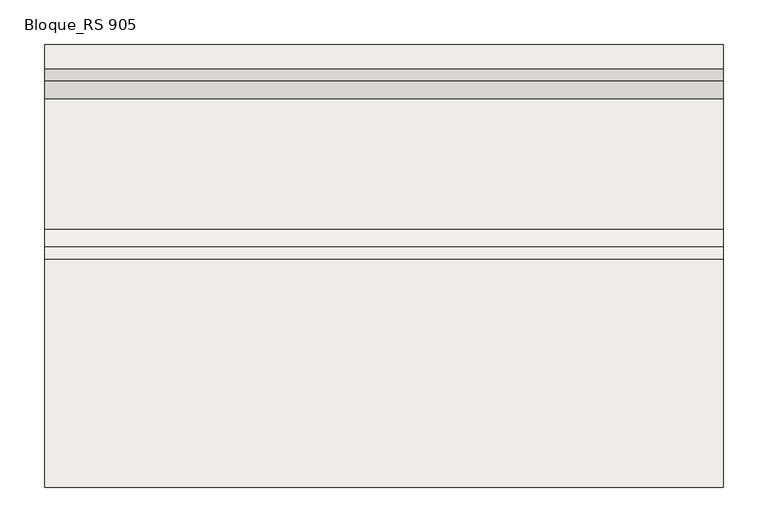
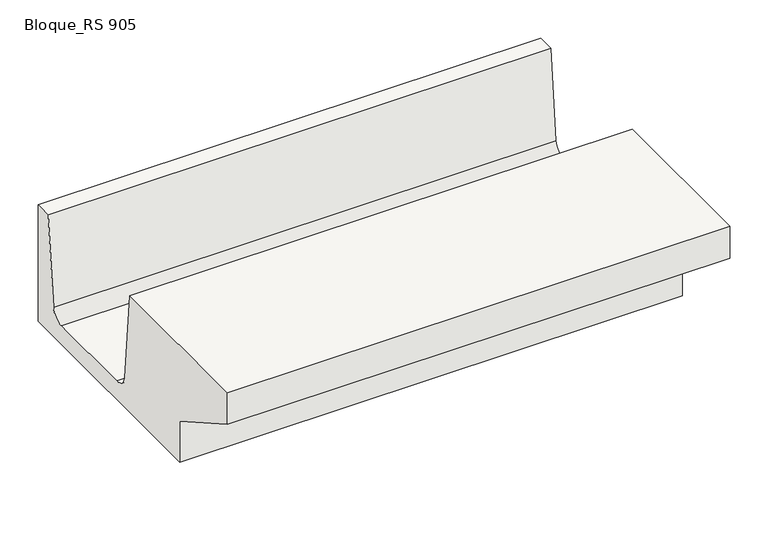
"""IFC4 building model written with IfcOpenShell, lengths in millimetres: slab geometry, ROSA GRES_RS 905 : Bloque_RS 905."""

from ifc_helpers import new_model, si_unit, point, frame, frame_2d, origin, place, context, project, spatial, polyline, circle_curve, trimmed, segment, composite_curve, outline, extrude, source, transform, mapped, element, save


def bloque_rs_905_97b4824b(model_context):
    return source(origin(), model_context, "Body", "SweptSolid", [
        extrude(outline(composite_curve([segment(polyline([(12.836227, 188.7539108), (268.704852, 188.7539108), (282.2408556, 49.1487962)]), True, "CONTINUOUS"), segment(trimmed(circle_curve(frame_2d((301.8831862, 51.599206)), 19.7945866), [point((282.2408556, 49.1487962))], [point((302.2746005, 31.8084896))], True, "CARTESIAN"), True, "CONTINUOUS"), segment(polyline([(302.2746005, 31.8084896), (448.3978535, 31.8084896)]), True, "CONTINUOUS"), segment(trimmed(circle_curve(frame_2d((448.7892677, 51.599206)), 19.7945866), [point((448.3978535, 31.8084896))], [point((468.4315983, 49.1487962))], True, "CARTESIAN"), True, "CONTINUOUS"), segment(polyline([(468.4315983, 49.1487962), (481.967602, 188.7539108), (508.836227, 188.7539108), (508.836227, 1.7539108), (137.836227, 1.7539108), (137.836227, 66.7539108), (12.836227, 137.7539108), (12.836227, 188.7539108)]), True, "CONTINUOUS")], self_intersect=False)), frame((0.0, 0.0, 0.0), z_axis=(1.0, 0.0, 0.0), x_axis=(0.0, 1.0, 0.0)), (0.0, 0.0, 1.0), 759.9734114),
    ])


if __name__ == "__main__":
    model = new_model("IFC4")
    model_context = context("Model", 3, world=origin())
    ifc_project = project(units=[si_unit("LENGTHUNIT", "METRE", prefix="MILLI")], contexts=[model_context])
    site = spatial("IfcSite", under=ifc_project)
    building = spatial("IfcBuilding", under=site)
    placement = place(None, origin())
    bloque_rs_905_shape = bloque_rs_905_97b4824b(model_context)
    element("IfcSlab", 1, ObjectType="ROSA GRES_RS 905 : Bloque_RS 905", at=placement, inside=building, context=model_context, shape_type="MappedRepresentation", body=[
        mapped(bloque_rs_905_shape, transform((0.0, 0.0, 0.0), x_axis=(1.0, 0.0, 0.0), y_axis=(0.0, 1.0, 0.0), z_axis=(0.0, 0.0, 1.0))),
    ])
    save(model, "model.ifc")
